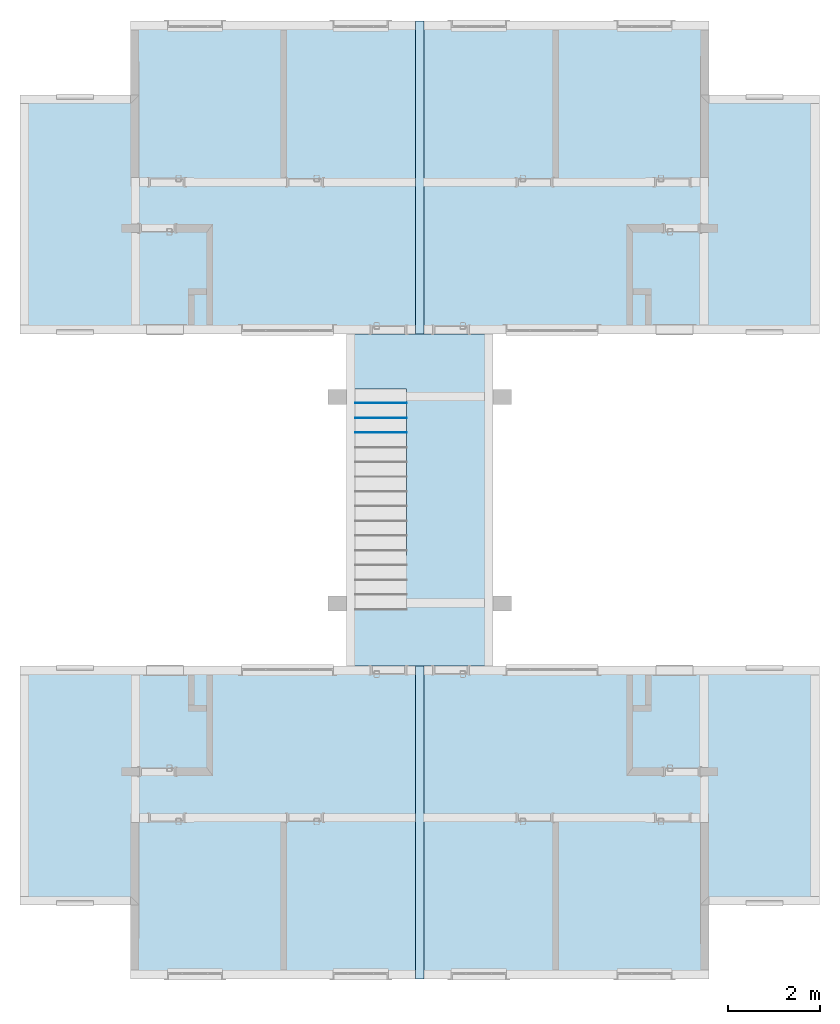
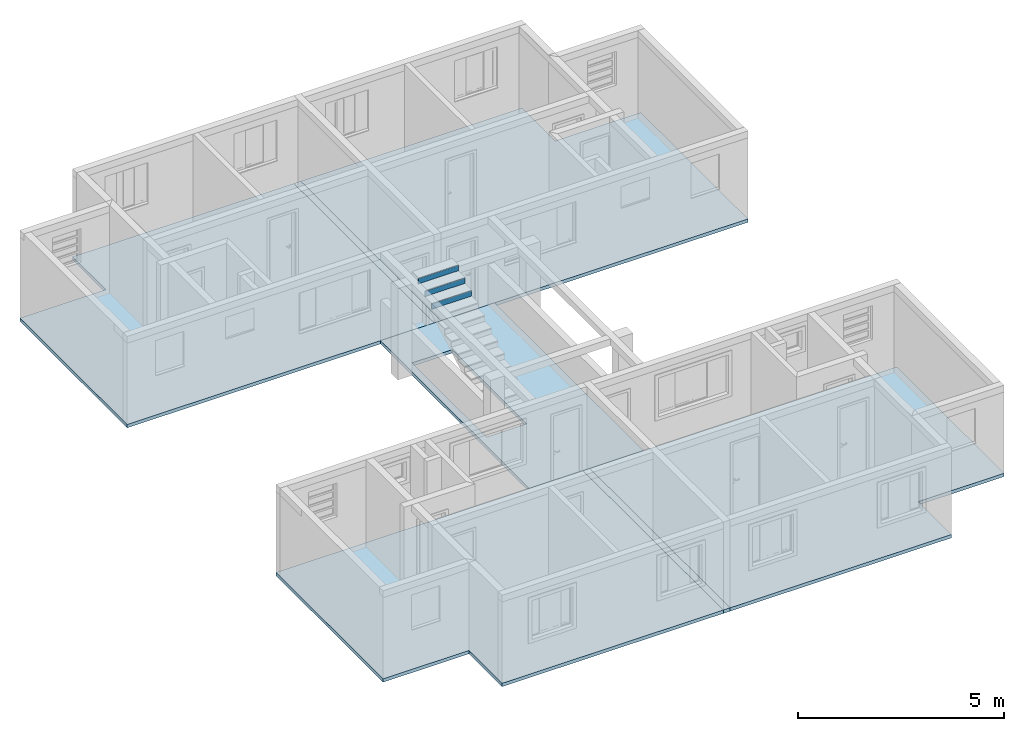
# One storey, part 2 of 43: 7 slabs, 3 members, 1 element without a shape of its own.
"""IFC2X3 building model written with IfcOpenShell, lengths in millimetres."""

from ifc_helpers import new_model, entity, si_unit, converted_unit, derived_unit, money_unit, direction, frame, origin_with_axes, place, context, subcontext, project, spatial, polyline, outline, extrude, faceted_brep, material, layer, layer_set, layer_usage, type_object, element, aggregate, save


model = new_model("IFC2X3")

# Units and contexts
model_context = context("Model", 3, precision=0.01, world=origin_with_axes(), true_north=direction((0.0, 1.0)))
body_context = subcontext(model_context, "Body", "Model", "MODEL_VIEW")
ifc_project = project(units=[si_unit("LENGTHUNIT", "METRE", prefix="MILLI"), si_unit("AREAUNIT", "SQUARE_METRE"), si_unit("VOLUMEUNIT", "CUBIC_METRE"), converted_unit("PLANEANGLEUNIT", "DEGREE", entity("IfcPlaneAngleMeasure", 0.0174532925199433), si_unit("PLANEANGLEUNIT", "RADIAN"), dimensions=[0, 0, 0, 0, 0, 0, 0]), money_unit("USD"), converted_unit("TIMEUNIT", "Year", entity("IfcTimeMeasure", 31557600.0), si_unit("TIMEUNIT", "SECOND"), dimensions=[0, 0, 1, 0, 0, 0, 0]), si_unit("MASSUNIT", "GRAM", prefix="KILO"), si_unit("THERMODYNAMICTEMPERATUREUNIT", "DEGREE_CELSIUS"), si_unit("LUMINOUSINTENSITYUNIT", "LUMEN"), si_unit("ENERGYUNIT", "JOULE", prefix="MEGA"), derived_unit("THERMALCONDUCTANCEUNIT", [(si_unit("POWERUNIT", "WATT"), 1), (si_unit("LENGTHUNIT", "METRE"), -1), (si_unit("THERMODYNAMICTEMPERATUREUNIT", "KELVIN"), -1)]), derived_unit("SPECIFICHEATCAPACITYUNIT", [(si_unit("ENERGYUNIT", "JOULE"), 1), (si_unit("MASSUNIT", "GRAM", prefix="KILO"), -1), (si_unit("THERMODYNAMICTEMPERATUREUNIT", "KELVIN"), -1)]), derived_unit("MASSDENSITYUNIT", [(si_unit("MASSUNIT", "GRAM", prefix="KILO"), 1), (si_unit("VOLUMEUNIT", "CUBIC_METRE"), -1)])], contexts=[model_context])

# Site, building, storey
site_placement = place(None, origin_with_axes())
site = spatial("IfcSite", under=ifc_project, at=site_placement, Name="Local", CompositionType="ELEMENT")
building_placement = place(site_placement, origin_with_axes())
building = spatial("IfcBuilding", under=site, at=building_placement, Name="Construção", CompositionType="ELEMENT")
storey_placement = place(building_placement, origin_with_axes())
storey = spatial("IfcBuildingStorey", under=building, at=storey_placement, Name="Pavimento Tipo", CompositionType="ELEMENT", Elevation=0.0)

# Stair, members
stair_placement = place(storey_placement, frame((62392.434598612, -357.5384792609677, 0.0), z_axis=(0.0, 0.0, 1.0), x_axis=(1.0, 0.0, 0.0)))
stair = element("IfcStair", 1, at=stair_placement, inside=storey, Name="NúcleoEscada - 001", ShapeType="NOTDEFINED")
ifc_material_1 = material(Name="Madeira")
member_type = type_object("IfcMemberType", Name="IfcMember", PredefinedType="USERDEFINED")
member_1_placement = place(stair_placement, frame((560.0000000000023, 3840.0, 2315.0), z_axis=(0.0, 0.0, 1.0), x_axis=(1.0, 0.0, 0.0)))
member_1 = element("IfcMember", 2, at=member_1_placement, type_object=member_type, material=ifc_material_1, Name="NúcleoEspelho Esc. - 017", ObjectType="Stair Riser", context=body_context, shape_type="Brep", body=[
    faceted_brep([(560.0, 15.0, 0.0), (560.0, 25.0, 0.0), (-560.0, 25.0, 0.0), (-560.0, 15.0, 0.0), (560.0, 15.00000000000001, -155.0), (560.0, 25.00000000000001, -155.0), (-560.0, 25.00000000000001, -155.0), (-560.0, 15.00000000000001, -155.0)], [[[0, 1, 2, 3]], [[0, 4, 5, 1]], [[1, 5, 6, 2]], [[3, 2, 6, 7]], [[4, 0, 3, 7]], [[5, 4, 7, 6]]]),
])
member_2_placement = place(stair_placement, frame((560.0000000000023, 4160.0, 2495.0), z_axis=(0.0, 0.0, 1.0), x_axis=(1.0, 0.0, 0.0)))
member_2 = element("IfcMember", 3, at=member_2_placement, type_object=member_type, material=ifc_material_1, Name="NúcleoEspelho Esc. - 017", ObjectType="Stair Riser", context=body_context, shape_type="Brep", body=[
    faceted_brep([(560.0, 15.0, 0.0), (560.0, 25.0, 0.0), (-560.0, 25.0, 0.0), (-560.0, 15.0, 0.0), (560.0, 15.00000000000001, -155.0), (560.0, 25.00000000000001, -155.0), (-560.0, 25.00000000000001, -155.0), (-560.0, 15.00000000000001, -155.0)], [[[0, 1, 2, 3]], [[0, 4, 5, 1]], [[1, 5, 6, 2]], [[3, 2, 6, 7]], [[4, 0, 3, 7]], [[5, 4, 7, 6]]]),
])
member_3_placement = place(stair_placement, frame((560.0000000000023, 4480.0, 2675.0), z_axis=(0.0, 0.0, 1.0), x_axis=(1.0, 0.0, 0.0)))
member_3 = element("IfcMember", 4, at=member_3_placement, type_object=member_type, material=ifc_material_1, Name="NúcleoEspelho Esc. - 017", ObjectType="Stair Riser", context=body_context, shape_type="Brep", body=[
    faceted_brep([(560.0, 15.0, 0.0), (560.0, 25.0, 0.0), (-560.0, 25.0, 0.0), (-560.0, 15.0, 0.0), (560.0, 15.00000000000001, -155.0), (560.0, 25.00000000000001, -155.0), (-560.0, 25.00000000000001, -155.0), (-560.0, 15.00000000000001, -155.0)], [[[0, 1, 2, 3]], [[0, 4, 5, 1]], [[1, 5, 6, 2]], [[3, 2, 6, 7]], [[4, 0, 3, 7]], [[5, 4, 7, 6]]]),
])
aggregate(stair, [member_1, member_2, member_3])

# Slabs
ifc_material_2 = material(Name="Concreto")
ifc_layer = layer(ifc_material_2, 100.0, ventilated="UNKNOWN")
ifc_layer_set = layer_set([ifc_layer], Name="Concreto 100")
ifc_layer_usage_1 = layer_usage(ifc_layer_set, "AXIS3", "NEGATIVE", 100.0)
slab_type = type_object("IfcSlabType", Name="Concreto 100", PredefinedType="NOTDEFINED")
slab_1_placement = place(storey_placement, frame((63892.19973179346, 5642.461520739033, 0.0), z_axis=(0.0, 0.0, 1.0), x_axis=(1.0, 0.0, 0.0)))
element("IfcSlab", 5, at=slab_1_placement, inside=storey, type_object=slab_type, material=ifc_layer_usage_1, Name="Apartamento 1 - L04", PredefinedType="NOTDEFINED", context=body_context, shape_type="SweptSolid", body=[
    extrude(outline(polyline([(0.0, 0.0), (8584.765133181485, 0.0), (8584.765133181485, 5189.999963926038), (6187.307570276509, 5189.999963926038), (6187.307570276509, 6792.903414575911), (0.0, 6792.903432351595), (0.0, 0.0)])), frame((0.0, 0.0, -100.0), z_axis=(0.0, 0.0, 1.0), x_axis=(1.0, 0.0, 0.0)), (0.0, 0.0, 1.0), 100.0),
])
ifc_layer_usage_2 = layer_usage(ifc_layer_set, "AXIS3", "NEGATIVE", 100.0)
slab_2_placement = place(storey_placement, frame((63702.19973179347, 5642.461520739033, 0.0), z_axis=(0.0, 0.0, 1.0), x_axis=(1.0, 0.0, 0.0)))
element("IfcSlab", 6, at=slab_2_placement, inside=storey, type_object=slab_type, material=ifc_layer_usage_2, Name="Apartamentos 1 e 2 - L06", PredefinedType="NOTDEFINED", context=body_context, shape_type="SweptSolid", body=[
    extrude(outline(polyline([(0.0, 0.0), (189.9999999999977, 0.0), (189.9999999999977, 6792.903432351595), (0.0004778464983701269, 6793.329556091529), (0.0, 0.0)])), frame((0.0, 0.0, -100.0), z_axis=(0.0, 0.0, 1.0), x_axis=(1.0, 0.0, 0.0)), (0.0, 0.0, 1.0), 100.0),
])
ifc_layer_usage_3 = layer_usage(ifc_layer_set, "AXIS3", "NEGATIVE", 100.0)
slab_3_placement = place(storey_placement, frame((63702.19973179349, 5642.461520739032, 0.0), z_axis=(0.0, 0.0, 1.0), x_axis=(1.0, 0.0, 0.0)))
element("IfcSlab", 7, at=slab_3_placement, inside=storey, type_object=slab_type, material=ifc_layer_usage_3, Name="Apartamento 2 - L04", PredefinedType="NOTDEFINED", context=body_context, shape_type="SweptSolid", body=[
    extrude(outline(polyline([(0.0, 0.0), (0.0, 6792.903432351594), (-6187.307570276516, 6792.903414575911), (-6187.307570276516, 5189.999963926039), (-8584.765133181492, 5189.999963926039), (-8584.765133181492, 0.0), (0.0, 0.0)])), frame((0.0, 0.0, -100.0), z_axis=(0.0, 0.0, 1.0), x_axis=(1.0, 0.0, 0.0)), (0.0, 0.0, 1.0), 100.0),
])
ifc_layer_usage_4 = layer_usage(ifc_layer_set, "AXIS3", "NEGATIVE", 100.0)
slab_4_placement = place(storey_placement, frame((63702.19973179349, -1567.538479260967, 0.0), z_axis=(0.0, 0.0, 1.0), x_axis=(1.0, 0.0, 0.0)))
element("IfcSlab", 8, at=slab_4_placement, inside=storey, type_object=slab_type, material=ifc_layer_usage_4, Name="Apartamento 3 - L04", PredefinedType="NOTDEFINED", context=body_context, shape_type="SweptSolid", body=[
    extrude(outline(polyline([(0.0, 0.0), (-8584.765133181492, 0.0), (-8584.765133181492, -5189.999963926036), (-6187.307570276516, -5189.999963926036), (-6187.307570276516, -6792.903414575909), (0.0, -6792.903432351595), (0.0, 0.0)])), frame((0.0, 0.0, -100.0), z_axis=(0.0, 0.0, 1.0), x_axis=(1.0, 0.0, 0.0)), (0.0, 0.0, 1.0), 100.0),
])
ifc_layer_usage_5 = layer_usage(ifc_layer_set, "AXIS3", "NEGATIVE", 100.0)
slab_5_placement = place(storey_placement, frame((63892.19973179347, -1567.538479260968, 0.0), z_axis=(0.0, 0.0, 1.0), x_axis=(1.0, 0.0, 0.0)))
element("IfcSlab", 9, at=slab_5_placement, inside=storey, type_object=slab_type, material=ifc_layer_usage_5, Name="Apartamentos 3 e 4 - L06", PredefinedType="NOTDEFINED", context=body_context, shape_type="SweptSolid", body=[
    extrude(outline(polyline([(0.0, 0.0), (-189.9999999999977, 0.0), (-189.9999999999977, -6792.903432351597), (-0.0004778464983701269, -6793.329556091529), (0.0, 0.0)])), frame((0.0, 0.0, -100.0), z_axis=(0.0, 0.0, 1.0), x_axis=(1.0, 0.0, 0.0)), (0.0, 0.0, 1.0), 100.0),
])
ifc_layer_usage_6 = layer_usage(ifc_layer_set, "AXIS3", "NEGATIVE", 100.0)
slab_6_placement = place(storey_placement, frame((63892.19973179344, -1567.538479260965, 0.0), z_axis=(0.0, 0.0, 1.0), x_axis=(1.0, 0.0, 0.0)))
element("IfcSlab", 10, at=slab_6_placement, inside=storey, type_object=slab_type, material=ifc_layer_usage_6, Name="Apartamento 4 - L04", PredefinedType="NOTDEFINED", context=body_context, shape_type="SweptSolid", body=[
    extrude(outline(polyline([(0.0, 0.0), (0.0, -6792.903432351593), (6187.307570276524, -6792.903414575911), (6187.307570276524, -5189.999963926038), (8584.7651331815, -5189.999963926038), (8584.7651331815, 0.0), (0.0, 0.0)])), frame((0.0, 0.0, -100.0), z_axis=(0.0, 0.0, 1.0), x_axis=(1.0, 0.0, 0.0)), (0.0, 0.0, 1.0), 100.0),
])
ifc_layer_usage_7 = layer_usage(ifc_layer_set, "AXIS3", "NEGATIVE", 100.0)
slab_7_placement = place(storey_placement, frame((62202.434598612, -1567.538479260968, 0.0), z_axis=(0.0, 0.0, 1.0), x_axis=(1.0, 0.0, 0.0)))
element("IfcSlab", 11, at=slab_7_placement, inside=storey, type_object=slab_type, material=ifc_layer_usage_7, Name="NúcleoL05", PredefinedType="NOTDEFINED", context=body_context, shape_type="SweptSolid", body=[
    extrude(outline(polyline([(0.0, 0.0), (3189.999999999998, 0.0), (3189.999999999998, 7210.0), (0.0, 7210.0), (0.0, 0.0)]), holes=[polyline([(1310.000000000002, 2400.000000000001), (190.0000000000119, 2400.000000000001), (190.0000000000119, 6009.999999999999), (1310.000000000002, 6009.999999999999), (1310.000000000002, 2400.000000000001)])]), frame((0.0, 0.0, -100.0), z_axis=(0.0, 0.0, 1.0), x_axis=(1.0, 0.0, 0.0)), (0.0, 0.0, 1.0), 100.0),
])

save(model, "model.ifc")
